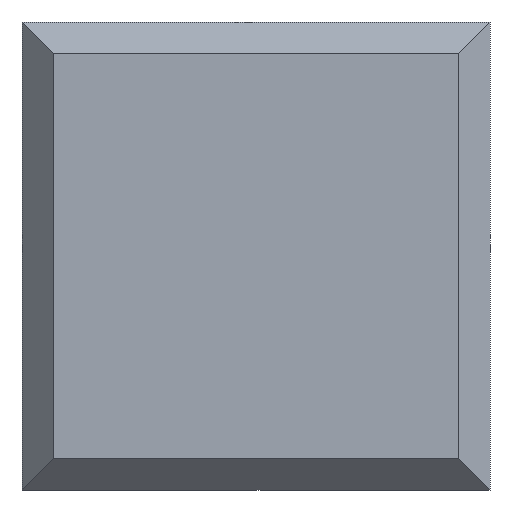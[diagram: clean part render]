
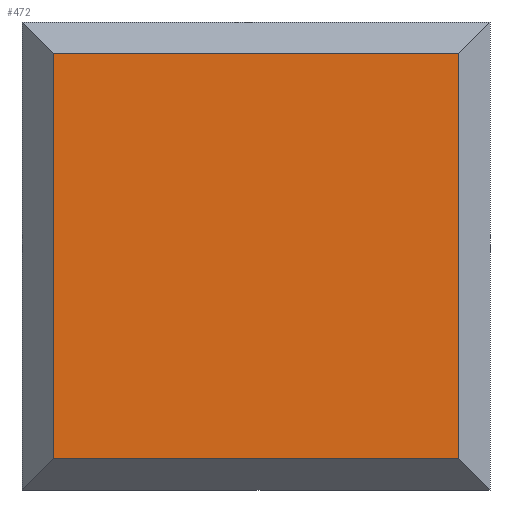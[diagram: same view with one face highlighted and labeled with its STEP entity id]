
A CAD part, front view. The second image highlights one B-rep face of the part: STEP entity #472.
In plain terms, the highlighted planar face has unit normal (0, -1, 0).
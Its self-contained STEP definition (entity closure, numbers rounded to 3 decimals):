
#18 = EDGE_CURVE ( 'NONE', #347, #899, #532, .T. ) ;
#41 = DIRECTION ( 'NONE',  ( -1., 0., 0. ) ) ;
#58 = LINE ( 'NONE', #875, #609 ) ;
#64 = DIRECTION ( 'NONE',  ( -1., 0., 0. ) ) ;
#69 = DIRECTION ( 'NONE',  ( 0., -1., 0. ) ) ;
#74 = VECTOR ( 'NONE', #183, 1000. ) ;
#153 = FACE_OUTER_BOUND ( 'NONE', #701, .T. ) ;
#157 = PLANE ( 'NONE',  #628 ) ;
#183 = DIRECTION ( 'NONE',  ( 0., 0., -1. ) ) ;
#187 = VECTOR ( 'NONE', #952, 1000. ) ;
#201 = CARTESIAN_POINT ( 'NONE',  ( 7.5, -6., -6.5 ) ) ;
#242 = CARTESIAN_POINT ( 'NONE',  ( 6.5, -6., 6.5 ) ) ;
#252 = CARTESIAN_POINT ( 'NONE',  ( 6.5, -6., 6.5 ) ) ;
#285 = LINE ( 'NONE', #796, #74 ) ;
#344 = VECTOR ( 'NONE', #41, 1000. ) ;
#347 = VERTEX_POINT ( 'NONE', #771 ) ;
#395 = CARTESIAN_POINT ( 'NONE',  ( -6.5, -6., 6.5 ) ) ;
#412 = CARTESIAN_POINT ( 'NONE',  ( -6.5, -6., -6.5 ) ) ;
#417 = LINE ( 'NONE', #488, #187 ) ;
#472 = ADVANCED_FACE ( 'NONE', ( #153 ), #157, .T. ) ;
#488 = CARTESIAN_POINT ( 'NONE',  ( 6.5, -6., 7.5 ) ) ;
#532 = LINE ( 'NONE', #201, #344 ) ;
#544 = DIRECTION ( 'NONE',  ( 1., 0., 0. ) ) ;
#609 = VECTOR ( 'NONE', #544, 1000. ) ;
#619 = ORIENTED_EDGE ( 'NONE', *, *, #633, .T. ) ;
#628 = AXIS2_PLACEMENT_3D ( 'NONE', #252, #69, #64 ) ;
#633 = EDGE_CURVE ( 'NONE', #831, #899, #285, .T. ) ;
#701 = EDGE_LOOP ( 'NONE', ( #886, #619, #832, #891 ) ) ;
#771 = CARTESIAN_POINT ( 'NONE',  ( 6.5, -6., -6.5 ) ) ;
#796 = CARTESIAN_POINT ( 'NONE',  ( -6.5, -6., 6.5 ) ) ;
#831 = VERTEX_POINT ( 'NONE', #395 ) ;
#832 = ORIENTED_EDGE ( 'NONE', *, *, #18, .F. ) ;
#875 = CARTESIAN_POINT ( 'NONE',  ( 7.5, -6., 6.5 ) ) ;
#886 = ORIENTED_EDGE ( 'NONE', *, *, #914, .F. ) ;
#891 = ORIENTED_EDGE ( 'NONE', *, *, #951, .F. ) ;
#899 = VERTEX_POINT ( 'NONE', #412 ) ;
#914 = EDGE_CURVE ( 'NONE', #831, #921, #58, .T. ) ;
#921 = VERTEX_POINT ( 'NONE', #242 ) ;
#951 = EDGE_CURVE ( 'NONE', #921, #347, #417, .T. ) ;
#952 = DIRECTION ( 'NONE',  ( 0., 0., -1. ) ) ;
